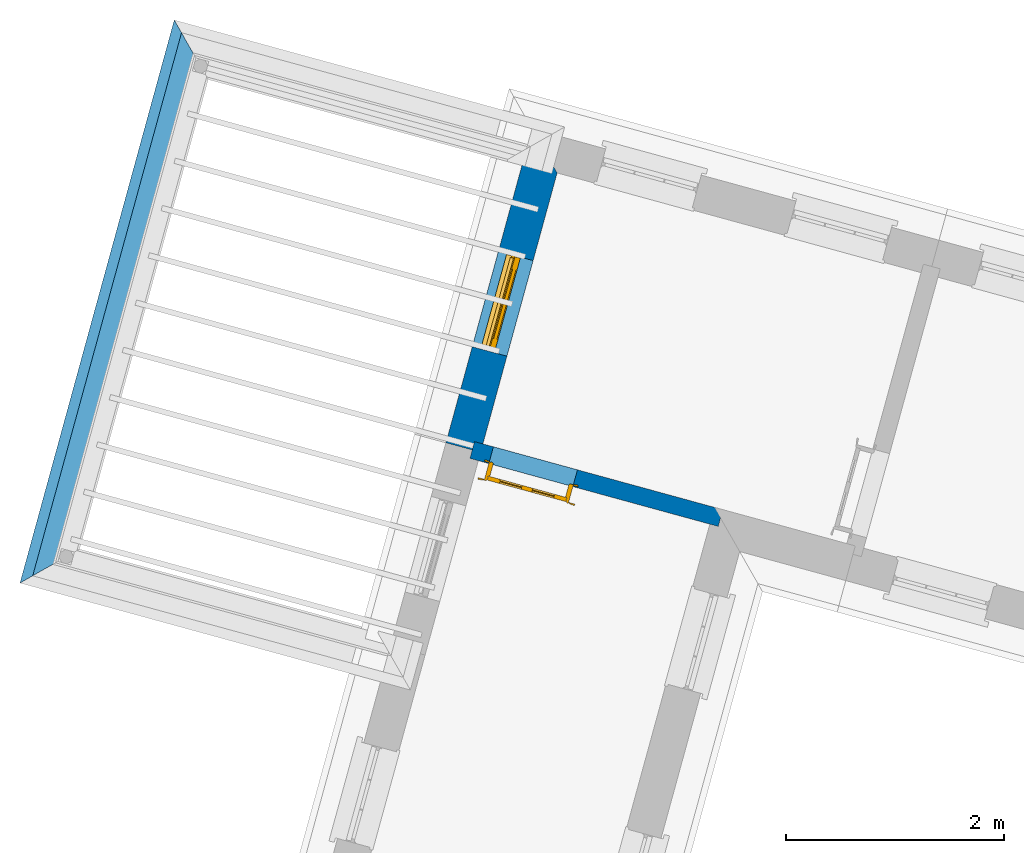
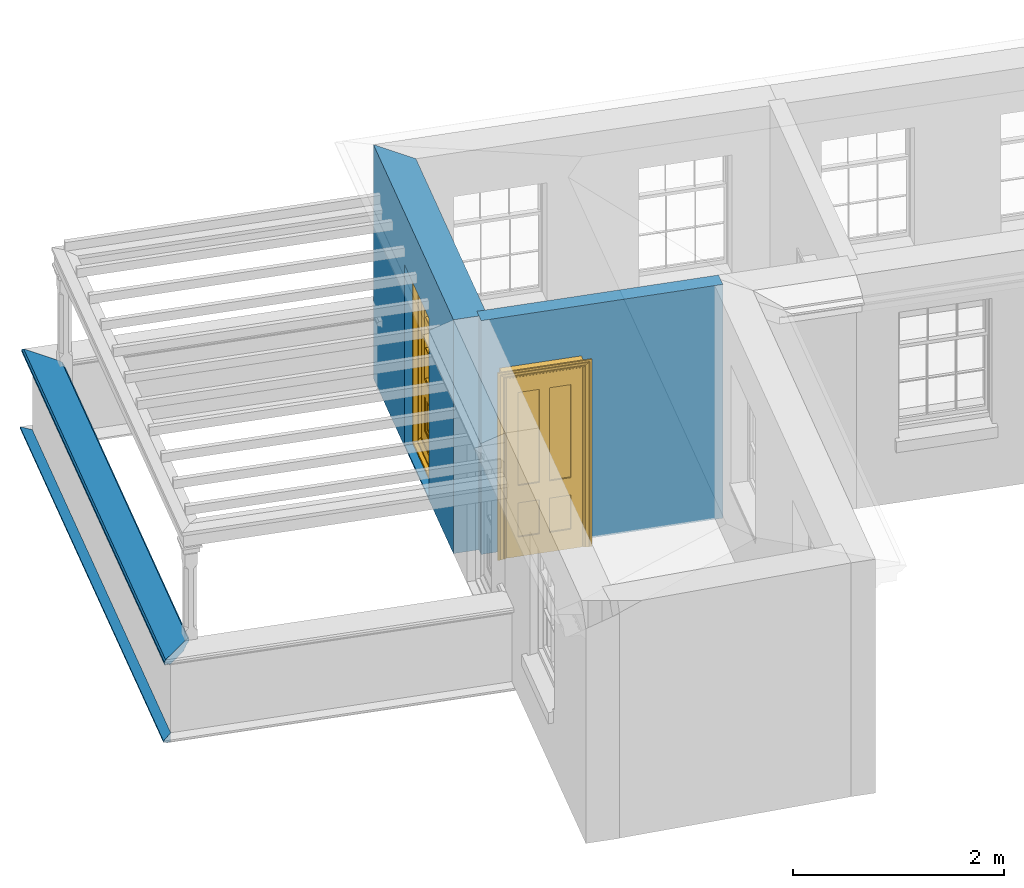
# One storey, part 3 of 5: 4 walls, 2 doors, 2 openings.
"""IFC4 building model written with IfcOpenShell, lengths in metres."""

from ifc_helpers import new_model, si_unit, frame, origin, origin_with_axes, place, context, subcontext, project, spatial, polyline, outline, extrude, clip, halfspace, faceted_brep, source, transform, mapped, material, layer, layer_set, layer_usage, material_profile, profile_set, profile_usage, type_object, type_shapes, element, fill, save


model = new_model("IFC4")

# Units and contexts
model_context = context("Model", 3, world=origin_with_axes())
body_context = subcontext(model_context, "Body", "Model", "MODEL_VIEW")
ifc_project = project(units=[si_unit("PLANEANGLEUNIT", "RADIAN"), si_unit("MASSUNIT", "GRAM", prefix="KILO"), si_unit("FORCEUNIT", "NEWTON", prefix="KILO"), si_unit("LENGTHUNIT", "METRE"), si_unit("AREAUNIT", "SQUARE_METRE"), si_unit("VOLUMEUNIT", "CUBIC_METRE")], contexts=[model_context, model_context])

# Sites, building, storey
site_1_placement = place(None, origin_with_axes())
site_1 = spatial("IfcSite", under=ifc_project, at=site_1_placement, Name="Tamar")
site_2_placement = place(site_1_placement, origin_with_axes())
site_2 = spatial("IfcSite", under=site_1, at=site_2_placement, Name="Site plot-29", CompositionType="ELEMENT")
building_placement = place(None, origin_with_axes())
building = spatial("IfcBuilding", under=site_2, at=building_placement, Name="Building plot-29", CompositionType="ELEMENT")
storey_placement = place(None, frame((0.0, 0.0, 30.55), z_axis=(0.0, 0.0, 1.0), x_axis=(1.0, 0.0, 0.0)))
storey = spatial("IfcBuildingStorey", under=building, at=storey_placement, Name="plot-29 2", CompositionType="ELEMENT", Elevation=30.55)

# Wall, opening, door
ifc_material_1 = material(Name="Masonry")
ifc_layer_1 = layer(ifc_material_1, 0.33, ventilated=False)
ifc_layer_set_1 = layer_set([ifc_layer_1], Name="exterior_0.08_0.25")
ifc_layer_usage_1 = layer_usage(ifc_layer_set_1, "AXIS2", "POSITIVE", -0.25)
wall_type_1 = type_object("IfcWallType", Name="exterior_0.08_0.25", PredefinedType="SOLIDWALL", material=ifc_layer_set_1)
wall_1_placement = place(storey_placement, frame((274.285325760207, 265.17368875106, 0.0), z_axis=(0.0, 0.0, 1.0), x_axis=(-0.264255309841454, -0.964452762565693, 0.0)))
wall_1 = element("IfcWall", 1, at=wall_1_placement, inside=storey, type_object=wall_type_1, material=ifc_layer_usage_1, Name="exterior", context=body_context, shape_type="SweptSolid", body=[
    extrude(outline(polyline([(0.0800000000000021, 0.0799999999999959), (-0.25000000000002, -0.25000000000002), (2.73910572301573, -0.250000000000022), (2.7391057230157, 0.0800000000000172), (0.0800000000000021, 0.0799999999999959)])), origin_with_axes(), (0.0, 0.0, 1.0), 2.7),
])
opening_1_placement = place(wall_1_placement, frame((0.914552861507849, 0.0, 0.0199999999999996)))
opening_1 = element("IfcOpeningElement", 2, at=opening_1_placement, cuts=wall_1, Name="My Opening", ObjectType="Opening", context=body_context, shape_type="SweptSolid", body=[
    extrude(outline(polyline([(0.0, -0.270000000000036), (0.910000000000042, -0.269999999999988), (0.910000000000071, 1.10000000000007), (2.79776202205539e-14, 1.10000000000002), (0.0, -0.270000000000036)])), origin_with_axes(), (0.0, 0.0, 1.0), 2.08),
])
door_type_1 = type_object("IfcDoorType", Name="door_panelled", OperationType="SINGLE_SWING_LEFT", PredefinedType="NOTDEFINED")
shared_shape_1 = source(origin(), body_context, "Body", "Brep", [
    faceted_brep([(0.545, 0.195, 0.265), (0.745, 0.195, 0.265), (0.745, 0.2, 0.265), (0.545, 0.2, 0.265), (0.745, 0.2, 0.58), (0.545, 0.2, 0.58), (0.545, 0.195, 0.58), (0.515, 0.19, 0.235), (0.775, 0.19, 0.235), (0.745, 0.195, 0.58), (0.515, 0.19, 0.61), (0.515, 0.185, 0.235), (0.775, 0.185, 0.235), (0.775, 0.19, 0.61), (0.515, 0.185, 0.61), (0.785, 0.185, 0.225), (0.505, 0.185, 0.225), (0.775, 0.185, 0.61), (0.505, 0.185, 0.62), (0.785, 0.185, 0.62), (0.505, 0.18, 0.225), (0.785, 0.18, 0.225), (0.505, 0.18, 0.62), (0.785, 0.18, 0.62), (0.883, 0.18, 0.075), (0.898, 0.18, 0.075), (0.405, 0.18, 0.62), (0.405, 0.18, 0.225), (0.027, 0.18, 0.075), (0.785, 0.18, 0.82), (0.125, 0.18, 0.82), (0.405, 0.185, 0.62), (0.405, 0.185, 0.225), (0.898, 0.18, 2.068), (0.027, 0.17, 0.075), (0.883, 0.17, 0.075), (0.125, 0.18, 0.225), (0.012, 0.18, 0.075), (0.785, 0.19, 0.82), (0.125, 0.19, 0.82), (0.125, 0.18, 0.62), (0.125, 0.185, 0.62), (0.395, 0.185, 0.61), (0.395, 0.185, 0.235), (0.125, 0.185, 0.225), (0.785, 0.18, 1.895), (0.027, 0.14, 0.045), (0.883, 0.14, 0.045), (0.558333, 0.19, 0.83), (0.351667, 0.19, 0.83), (0.125, 0.18, 1.895), (0.125, 0.19, 1.895), (0.785, 0.19, 1.895), (0.012, 0.18, 2.068), (0.135, 0.185, 0.61), (0.395, 0.19, 0.61), (0.395, 0.19, 0.235), (0.135, 0.185, 0.235), (0.027, 0.14, 0.027), (0.883, 0.14, 0.027), (0.568333, 0.19, 0.83), (0.558333, 0.22, 0.83), (0.351667, 0.22, 0.83), (0.341667, 0.19, 0.83), (0.135, 0.19, 1.185), (0.135, 0.19, 1.53), (0.775, 0.19, 1.53), (0.775, 0.19, 1.185), (0.135, 0.19, 0.61), (0.365, 0.195, 0.58), (0.365, 0.195, 0.265), (0.135, 0.19, 0.235), (0.568333, 0.19, 1.175), (0.558333, 0.19, 1.175), (0.775, 0.19, 0.83), (0.558333, 0.22, 1.175), (0.785, 0.22, 0.82), (0.125, 0.22, 0.82), (0.351667, 0.22, 1.175), (0.351667, 0.19, 1.175), (0.341667, 0.19, 1.175), (0.135, 0.19, 0.83), (0.135, 0.19, 1.175), (0.135, 0.22, 1.185), (0.135, 0.22, 1.53), (0.135, 0.19, 1.54), (0.351667, 0.19, 1.885), (0.558333, 0.19, 1.885), (0.775, 0.22, 1.53), (0.775, 0.22, 1.185), (0.775, 0.19, 1.175), (0.775, 0.19, 1.54), (0.165, 0.195, 0.58), (0.365, 0.2, 0.58), (0.365, 0.2, 0.265), (0.165, 0.195, 0.265), (0.568333, 0.22, 0.83), (0.568333, 0.22, 1.175), (0.568333, 0.19, 1.185), (0.558333, 0.19, 1.185), (0.775, 0.22, 0.83), (0.785, 0.23, 0.82), (0.125, 0.23, 0.82), (0.341667, 0.22, 0.83), (0.341667, 0.22, 1.175), (0.351667, 0.19, 1.185), (0.341667, 0.19, 1.185), (0.135, 0.22, 0.83), (0.341667, 0.22, 1.185), (0.125, 0.22, 1.895), (0.341667, 0.22, 1.53), (0.341667, 0.19, 1.53), (0.135, 0.19, 1.885), (0.341667, 0.19, 1.54), (0.341667, 0.19, 1.885), (0.558333, 0.22, 1.885), (0.351667, 0.22, 1.885), (0.568333, 0.19, 1.885), (0.785, 0.22, 1.895), (0.568333, 0.22, 1.185), (0.568333, 0.19, 1.53), (0.568333, 0.22, 1.53), (0.568333, 0.19, 1.54), (0.775, 0.19, 1.885), (0.165, 0.2, 0.58), (0.165, 0.2, 0.265), (0.775, 0.22, 1.175), (0.558333, 0.19, 1.53), (0.351667, 0.22, 1.185), (0.558333, 0.22, 1.185), (0.505, 0.23, 0.62), (0.405, 0.23, 0.62), (0.125, 0.23, 1.895), (0.785, 0.23, 1.895), (0.351667, 0.19, 1.53), (0.135, 0.22, 1.175), (0.135, 0.22, 1.54), (0.341667, 0.22, 1.54), (0.135, 0.22, 1.885), (0.351667, 0.19, 1.54), (0.558333, 0.22, 1.54), (0.558333, 0.19, 1.54), (0.351667, 0.22, 1.54), (0.775, 0.22, 1.54), (0.568333, 0.22, 1.54), (0.775, 0.22, 1.885), (0.558333, 0.22, 1.53), (0.405, 0.23, 0.225), (0.505, 0.23, 0.225), (0.125, 0.23, 0.62), (0.785, 0.23, 0.62), (0.012, 0.23, 2.068), (0.898, 0.23, 2.068), (0.351667, 0.22, 1.53), (0.341667, 0.22, 1.885), (0.568333, 0.22, 1.885), (0.405, 0.225, 0.225), (0.405, 0.225, 0.62), (0.505, 0.225, 0.62), (0.505, 0.225, 0.225), (0.898, 0.23, 0.027), (0.012, 0.23, 0.027), (0.125, 0.225, 0.62), (0.785, 0.225, 0.62), (0.395, 0.225, 0.235), (0.395, 0.225, 0.61), (0.125, 0.23, 0.225), (0.125, 0.225, 0.225), (0.515, 0.225, 0.61), (0.515, 0.225, 0.235), (0.785, 0.23, 0.225), (0.785, 0.225, 0.225), (0.135, 0.225, 0.61), (0.775, 0.225, 0.61), (0.135, 0.225, 0.235), (0.395, 0.22, 0.235), (0.395, 0.22, 0.61), (0.515, 0.22, 0.61), (0.515, 0.22, 0.235), (0.775, 0.225, 0.235), (0.135, 0.22, 0.61), (0.775, 0.22, 0.61), (0.135, 0.22, 0.235), (0.365, 0.215, 0.265), (0.365, 0.215, 0.58), (0.545, 0.215, 0.58), (0.545, 0.215, 0.265), (0.775, 0.22, 0.235), (0.165, 0.215, 0.58), (0.745, 0.215, 0.58), (0.165, 0.215, 0.265), (0.365, 0.21, 0.58), (0.365, 0.21, 0.265), (0.545, 0.21, 0.58), (0.545, 0.21, 0.265), (0.745, 0.215, 0.265), (0.165, 0.21, 0.58), (0.745, 0.21, 0.58), (0.165, 0.21, 0.265), (0.745, 0.21, 0.265), (0.885, 0.178, 0.025), (0.025, 0.178, 0.025), (0.025, 0.15, 0.025), (0.885, 0.15, 0.025), (0.9, 0.23, 0.025), (0.01, 0.23, 0.025), (0.9, 0.178, 0.025), (0.91, 0.23, 0.0), (0.0, 0.23, 0.0), (0.01, 0.178, 0.025), (0.9, 0.178, 2.07), (0.9, 0.23, 2.07), (0.885, 0.178, 2.055), (0.91, 0.23, 2.08), (0.01, 0.23, 2.07), (0.0, 0.23, 2.08), (0.01, 0.178, 2.07), (0.025, 0.178, 2.055), (0.0, 0.1, 2.08), (0.91, 0.1, 2.08), (0.01, 0.1, 2.07), (0.9, 0.1, 2.07), (0.01, 0.15, 2.07), (0.9, 0.15, 2.07), (0.0, 0.1, 0.0), (0.91, 0.1, 0.0), (0.01, 0.1, 0.025), (0.9, 0.1, 0.025), (0.01, 0.15, 0.025), (0.025, 0.15, 2.055), (0.9, 0.15, 0.025), (0.885, 0.15, 2.055), (0.898, 0.18, 0.027), (0.012, 0.18, 0.027), (0.883, 0.18, 0.027), (0.027, 0.18, 0.027)], [[[0, 1, 2, 3]], [[2, 4, 5, 3]], [[0, 3, 5, 6]], [[1, 0, 7, 8]], [[9, 4, 2, 1]], [[9, 6, 5, 4]], [[0, 6, 10, 7]], [[8, 7, 11, 12]], [[8, 13, 9, 1]], [[13, 10, 6, 9]], [[7, 10, 14, 11]], [[15, 12, 11, 16]], [[12, 17, 13, 8]], [[17, 14, 10, 13]], [[18, 16, 11, 14]], [[15, 19, 17, 12]], [[15, 16, 20, 21]], [[14, 17, 19, 18]], [[16, 18, 22, 20]], [[21, 23, 19, 15]], [[24, 25, 21, 20]], [[23, 22, 18, 19]], [[20, 22, 26, 27]], [[23, 21, 25]], [[28, 24, 20, 27]], [[22, 23, 29]], [[29, 30, 26, 22]], [[27, 26, 31, 32]], [[23, 25, 33, 29]], [[34, 35, 24, 28]], [[28, 27, 36, 37]], [[38, 39, 30, 29]], [[26, 30, 40]], [[26, 40, 41, 31]], [[42, 43, 32, 31]], [[32, 44, 36, 27]], [[33, 45, 29]], [[46, 47, 35, 34]], [[36, 40, 37]], [[39, 38, 48, 49]], [[50, 30, 39, 51]], [[29, 45, 52, 38]], [[53, 37, 40, 30]], [[44, 41, 40, 36]], [[31, 41, 54, 42]], [[43, 42, 55, 56]], [[57, 44, 32, 43]], [[50, 45, 33, 53]], [[47, 46, 58, 59]], [[60, 48, 38]], [[49, 48, 61, 62]], [[49, 63, 39]], [[50, 53, 30]], [[51, 39, 64, 65]], [[45, 50, 51, 52]], [[66, 67, 38, 52]], [[57, 54, 41, 44]], [[42, 54, 68, 55]], [[56, 55, 69, 70]], [[56, 71, 57, 43]], [[60, 72, 73, 48]], [[60, 38, 74]], [[48, 73, 75, 61]], [[76, 77, 62, 61]], [[62, 78, 79, 49]], [[49, 79, 80, 63]], [[63, 81, 39]], [[82, 64, 39]], [[65, 64, 83, 84]], [[85, 51, 65]], [[52, 51, 86, 87]], [[88, 89, 67, 66]], [[90, 38, 67]], [[91, 66, 52]], [[71, 68, 54, 57]], [[55, 68, 92, 69]], [[69, 93, 94, 70]], [[70, 95, 71, 56]], [[96, 97, 72, 60]], [[73, 72, 98, 99]], [[74, 38, 90]], [[100, 96, 60, 74]], [[75, 73, 79, 78]], [[61, 75, 97, 96]], [[101, 102, 77, 76]], [[77, 103, 62]], [[96, 76, 61]], [[103, 104, 78, 62]], [[80, 79, 105, 106]], [[63, 80, 104, 103]], [[81, 63, 103, 107]], [[81, 82, 39]], [[106, 64, 82, 80]], [[106, 108, 83, 64]], [[84, 83, 77, 109]], [[110, 111, 65, 84]], [[112, 51, 85]], [[113, 85, 65, 111]], [[114, 86, 51]], [[115, 87, 86, 116]], [[117, 52, 87]], [[118, 76, 89, 88]], [[119, 98, 67, 89]], [[120, 121, 88, 66]], [[67, 98, 72, 90]], [[91, 122, 120, 66]], [[91, 52, 123]], [[95, 92, 68, 71]], [[69, 92, 124, 93]], [[94, 93, 124, 125]], [[94, 125, 95, 70]], [[72, 97, 126, 90]], [[127, 99, 98, 120]], [[99, 105, 79, 73]], [[74, 90, 126, 100]], [[96, 100, 76]], [[128, 129, 75, 78]], [[97, 75, 129, 119]], [[130, 131, 102, 101]], [[109, 77, 102, 132]], [[133, 101, 76, 118]], [[77, 107, 103]], [[78, 104, 108, 128]], [[111, 106, 105, 134]], [[104, 80, 82, 135]], [[107, 135, 82, 81]], [[110, 108, 106, 111]], [[104, 135, 83, 108]], [[83, 135, 77]], [[136, 84, 109]], [[110, 84, 136, 137]], [[114, 51, 112]], [[85, 136, 138, 112]], [[113, 137, 136, 85]], [[111, 134, 139, 113]], [[86, 114, 113, 139]], [[140, 141, 87, 115]], [[139, 142, 116, 86]], [[109, 118, 115, 116]], [[117, 123, 52]], [[117, 87, 141, 122]], [[126, 89, 76]], [[143, 118, 88]], [[120, 98, 119, 121]], [[119, 89, 126, 97]], [[144, 143, 88, 121]], [[144, 122, 91, 143]], [[127, 120, 122, 141]], [[143, 91, 123, 145]], [[124, 92, 95, 125]], [[146, 129, 99, 127]], [[99, 129, 128, 105]], [[100, 126, 76]], [[121, 119, 129, 146]], [[147, 131, 130, 148]], [[131, 149, 102]], [[130, 101, 150]], [[102, 151, 132]], [[118, 109, 132, 133]], [[101, 133, 152]], [[107, 77, 135]], [[153, 128, 108, 110]], [[134, 105, 128, 153]], [[109, 138, 136]], [[153, 110, 137, 142]], [[154, 114, 112, 138]], [[137, 113, 114, 154]], [[141, 139, 134, 127]], [[141, 140, 142, 139]], [[144, 140, 115, 155]], [[142, 137, 154, 116]], [[155, 115, 118]], [[116, 154, 109]], [[117, 155, 145, 123]], [[122, 144, 155, 117]], [[143, 145, 118]], [[121, 146, 140, 144]], [[146, 127, 134, 153]], [[156, 157, 131, 147]], [[148, 130, 158, 159]], [[148, 160, 161, 147]], [[157, 162, 149, 131]], [[161, 151, 102, 149]], [[101, 152, 160, 150]], [[163, 158, 130, 150]], [[151, 152, 133, 132]], [[154, 138, 109]], [[142, 140, 146, 153]], [[145, 155, 118]], [[157, 156, 164, 165]], [[147, 166, 167, 156]], [[168, 169, 159, 158]], [[170, 148, 159, 171]], [[148, 170, 160]], [[166, 147, 161]], [[172, 162, 157, 165]], [[166, 149, 162, 167]], [[166, 161, 149]], [[150, 160, 170]], [[163, 173, 168, 158]], [[171, 163, 150, 170]], [[174, 164, 156, 167]], [[175, 176, 165, 164]], [[169, 168, 177, 178]], [[171, 159, 169, 179]], [[167, 162, 172, 174]], [[176, 180, 172, 165]], [[179, 173, 163, 171]], [[181, 177, 168, 173]], [[164, 174, 182, 175]], [[183, 184, 176, 175]], [[178, 177, 185, 186]], [[179, 169, 178, 187]], [[174, 172, 180, 182]], [[184, 188, 180, 176]], [[187, 181, 173, 179]], [[189, 185, 177, 181]], [[175, 182, 190, 183]], [[191, 184, 183, 192]], [[185, 193, 194, 186]], [[187, 178, 186, 195]], [[182, 180, 188, 190]], [[191, 196, 188, 184]], [[195, 189, 181, 187]], [[197, 193, 185, 189]], [[183, 190, 198, 192]], [[198, 196, 191, 192]], [[194, 193, 197, 199]], [[195, 186, 194, 199]], [[188, 196, 198, 190]], [[197, 189, 195, 199]], [[200, 201, 202, 203]], [[201, 200, 204, 205]], [[206, 204, 200]], [[204, 207, 208, 205]], [[209, 201, 205]], [[210, 211, 204, 206]], [[206, 200, 212, 210]], [[211, 213, 207, 204]], [[214, 205, 208, 215]], [[216, 217, 201, 209]], [[205, 214, 216, 209]], [[216, 214, 211, 210]], [[210, 212, 217, 216]], [[214, 215, 213, 211]], [[218, 219, 213, 215]], [[219, 218, 220, 221]], [[221, 220, 222, 223]], [[215, 208, 224, 218]], [[225, 224, 208, 207]], [[224, 226, 220, 218]], [[224, 225, 227, 226]], [[219, 225, 207, 213]], [[228, 222, 220, 226]], [[219, 221, 227, 225]], [[226, 227, 203, 202]], [[202, 229, 222, 228]], [[228, 226, 202]], [[227, 221, 223, 230]], [[230, 203, 227]], [[217, 229, 202, 201]], [[231, 223, 222, 229]], [[230, 223, 231, 203]], [[231, 229, 217, 212]], [[212, 200, 203, 231]], [[33, 152, 151, 53]], [[25, 160, 152, 33]], [[161, 37, 53, 151]], [[232, 160, 25]], [[161, 233, 37]], [[160, 232, 234]], [[24, 234, 232, 25]], [[233, 161, 235]], [[37, 233, 235, 28]], [[161, 160, 234, 235]], [[35, 47, 234, 24]], [[28, 235, 46, 34]], [[58, 235, 234, 59]], [[59, 234, 47]], [[58, 46, 235]]]),
])
type_shapes(door_type_1, [shared_shape_1])
door_1_placement = place(storey_placement, frame((273.78324806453, 264.362994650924, 0.0199999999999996), z_axis=(0.0, 0.0, 1.0), x_axis=(-0.240472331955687, -0.877652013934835, 0.0)))
door_1 = element("IfcDoor", 3, at=door_1_placement, inside=storey, type_object=door_type_1, Name="circulation outside door", OverallHeight=2.08, OverallWidth=0.91, context=body_context, shape_type="MappedRepresentation", body=[
    mapped(shared_shape_1, transform((0.0, 0.0, 0.0), scale=1.0)),
])
fill(opening_1, door_1)

ifc_material_2 = material(Name="Masonry")
ifc_layer_2 = layer(ifc_material_2, 0.16, ventilated=False)
ifc_layer_set_2 = layer_set([ifc_layer_2], Name="interior_0.08_0.08")
ifc_layer_usage_2 = layer_usage(ifc_layer_set_2, "AXIS2", "POSITIVE", -0.08)
wall_type_2 = type_object("IfcWallType", Name="interior_0.08_0.08", PredefinedType="SOLIDWALL", material=ifc_layer_set_2)
wall_2_placement = place(storey_placement, frame((275.841180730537, 261.90733006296, 0.0), z_axis=(0.0, 0.0, 1.0), x_axis=(-0.964452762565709, 0.264255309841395, 0.0)))
wall_2 = element("IfcWall", 4, at=wall_2_placement, inside=storey, type_object=wall_type_2, material=ifc_layer_usage_2, Name="interior", context=body_context, shape_type="SweptSolid", body=[
    extrude(outline(polyline([(-2.69246710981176e-14, 0.0800000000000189), (2.69167047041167e-14, -0.0800000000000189), (2.36370125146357, -0.0800000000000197), (2.36370125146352, 0.0800000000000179), (-2.69246710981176e-14, 0.0800000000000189)])), origin_with_axes(), (0.0, 0.0, 1.0), 2.7),
])
opening_2_placement = place(wall_2_placement, frame((1.38370125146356, 0.0, 0.0199999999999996)))
opening_2 = element("IfcOpeningElement", 5, at=opening_2_placement, cuts=wall_2, Name="My Opening", ObjectType="Opening", context=body_context, shape_type="SweptSolid", body=[
    extrude(outline(polyline([(0.0, -0.0999999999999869), (0.80000000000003, -0.0999999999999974), (0.79999999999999, 1.10000000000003), (-3.93018950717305e-14, 1.10000000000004), (0.0, -0.0999999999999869)])), origin_with_axes(), (0.0, 0.0, 1.0), 2.1),
])
door_type_2 = type_object("IfcDoorType", Name="door_inside", OperationType="SINGLE_SWING_LEFT", PredefinedType="NOTDEFINED")
shared_shape_2 = source(origin(), body_context, "Body", "Brep", [
    faceted_brep([(0.773, 0.33, 1.895), (0.66, 0.33, 1.895), (0.66, 0.33, 2.073), (0.773, 0.33, 2.073), (0.773, 0.33, 0.82), (0.66, 0.33, 0.82), (0.45, 0.33, 1.895), (0.45, 0.33, 2.073), (0.773, 0.33, 0.62), (0.66, 0.33, 0.62), (0.66, 0.315, 0.82), (0.66, 0.315, 1.895), (0.45, 0.315, 1.895), (0.35, 0.33, 1.895), (0.35, 0.33, 2.073), (0.773, 0.33, 0.225), (0.66, 0.33, 0.225), (0.45, 0.33, 0.62), (0.45, 0.33, 0.82), (0.45, 0.315, 0.82), (0.35, 0.33, 0.82), (0.14, 0.33, 2.073), (0.14, 0.33, 1.895), (0.773, 0.33, 0.0), (0.66, 0.33, 0.0), (0.66, 0.315, 0.225), (0.66, 0.315, 0.62), (0.45, 0.315, 0.62), (0.35, 0.33, 0.62), (0.35, 0.315, 0.82), (0.35, 0.315, 1.895), (0.14, 0.315, 1.895), (0.027, 0.33, 2.073), (0.027, 0.33, 1.895), (0.773, 0.292, 0.0), (0.66, 0.292, 0.0), (0.45, 0.33, 0.0), (0.45, 0.33, 0.225), (0.45, 0.315, 0.225), (0.35, 0.33, 0.225), (0.14, 0.33, 0.82), (0.14, 0.33, 0.62), (0.14, 0.315, 0.82), (0.027, 0.33, 0.82), (0.773, 0.292, 0.225), (0.66, 0.292, 0.225), (0.45, 0.292, 0.0), (0.35, 0.33, 0.0), (0.35, 0.315, 0.225), (0.35, 0.315, 0.62), (0.14, 0.315, 0.62), (0.027, 0.33, 0.62), (0.773, 0.292, 0.62), (0.66, 0.292, 0.62), (0.45, 0.292, 0.225), (0.35, 0.292, 0.0), (0.14, 0.33, 0.225), (0.14, 0.33, 0.0), (0.14, 0.315, 0.225), (0.027, 0.33, 0.225), (0.773, 0.292, 0.82), (0.66, 0.292, 0.82), (0.66, 0.307, 0.62), (0.66, 0.307, 0.225), (0.45, 0.307, 0.225), (0.35, 0.292, 0.225), (0.14, 0.292, 0.0), (0.027, 0.33, 0.0), (0.773, 0.292, 1.895), (0.66, 0.292, 1.895), (0.45, 0.292, 0.62), (0.45, 0.292, 0.82), (0.45, 0.307, 0.62), (0.35, 0.292, 0.62), (0.14, 0.292, 0.225), (0.027, 0.292, 0.0), (0.773, 0.292, 2.073), (0.66, 0.292, 2.073), (0.66, 0.307, 1.895), (0.66, 0.307, 0.82), (0.45, 0.307, 0.82), (0.35, 0.292, 0.82), (0.35, 0.307, 0.62), (0.35, 0.307, 0.225), (0.14, 0.307, 0.225), (0.027, 0.292, 0.225), (0.45, 0.292, 1.895), (0.45, 0.292, 2.073), (0.45, 0.307, 1.895), (0.35, 0.292, 1.895), (0.14, 0.292, 0.82), (0.14, 0.292, 0.62), (0.14, 0.307, 0.62), (0.027, 0.292, 0.62), (0.35, 0.292, 2.073), (0.35, 0.307, 1.895), (0.35, 0.307, 0.82), (0.14, 0.307, 0.82), (0.027, 0.292, 0.82), (0.14, 0.292, 2.073), (0.14, 0.292, 1.895), (0.14, 0.307, 1.895), (0.027, 0.292, 1.895), (0.027, 0.292, 2.073), (0.02, 0.335, 0.0), (0.005, 0.34, 0.0), (0.005, 0.34, 2.095), (0.02, 0.335, 2.08), (0.02, 0.33, 0.0), (0.0, 0.335, 0.0), (0.0, 0.335, 2.1), (0.795, 0.34, 2.095), (0.78, 0.335, 2.08), (0.02, 0.33, 2.08), (0.0, 0.33, 0.0), (-0.032, 0.345, 0.0), (-0.032, 0.345, 2.132), (0.8, 0.335, 2.1), (0.795, 0.34, 0.0), (0.78, 0.335, 0.0), (0.78, 0.33, 2.08), (0.04, 0.29, 0.0), (0.025, 0.29, 0.0), (0.025, 0.29, 2.075), (0.04, 0.29, 2.06), (-0.04, 0.34, 0.0), (-0.04, 0.34, 2.14), (0.832, 0.345, 2.132), (0.8, 0.335, 0.0), (0.78, 0.33, 0.0), (0.8, 0.33, 0.0), (0.86, 0.33, 0.0), (0.86, 0.33, 2.16), (0.8, 0.33, 2.1), (-0.06, 0.33, 2.16), (0.0, 0.33, 2.1), (-0.06, 0.33, 0.0), (-0.04, 0.345, 0.0), (-0.04, 0.345, 2.14), (0.84, 0.34, 2.14), (0.832, 0.345, 0.0), (0.84, 0.34, 0.0), (0.86, 0.345, 0.0), (0.86, 0.345, 2.16), (-0.06, 0.345, 2.16), (-0.06, 0.345, 0.0), (0.84, 0.345, 0.0), (0.84, 0.345, 2.14), (-0.025, 0.155, 0.0), (-0.025, 0.16, 0.0), (-0.025, 0.16, 2.125), (-0.025, 0.155, 2.125), (-0.017, 0.155, 0.0), (-0.017, 0.155, 2.117), (0.825, 0.16, 2.125), (0.825, 0.155, 2.125), (0.825, 0.155, 0.0), (0.845, 0.155, 0.0), (-0.045, 0.155, 2.145), (-0.045, 0.155, 0.0), (0.845, 0.155, 2.145), (0.015, 0.165, 0.0), (0.015, 0.165, 2.085), (0.817, 0.155, 2.117), (0.825, 0.16, 0.0), (0.845, 0.17, 0.0), (0.845, 0.17, 2.145), (-0.045, 0.17, 2.145), (-0.045, 0.17, 0.0), (0.02, 0.16, 0.0), (0.02, 0.16, 2.08), (0.785, 0.165, 2.085), (0.817, 0.155, 0.0), (0.8, 0.17, 0.0), (0.8, 0.17, 2.1), (0.0, 0.17, 2.1), (0.0, 0.17, 0.0), (0.035, 0.165, 0.0), (0.035, 0.165, 2.065), (0.78, 0.16, 2.08), (0.785, 0.165, 0.0), (0.775, 0.29, 2.075), (0.76, 0.29, 2.06), (0.035, 0.17, 2.065), (0.035, 0.17, 0.0), (0.765, 0.165, 2.065), (0.78, 0.16, 0.0), (0.765, 0.17, 0.0), (0.765, 0.17, 2.065), (0.765, 0.165, 0.0), (0.04, 0.17, 2.06), (0.04, 0.17, 0.0), (0.76, 0.17, 2.06), (0.76, 0.17, 0.0), (0.76, 0.29, 0.0), (0.775, 0.29, 0.0), (0.025, 0.33, 0.0), (0.025, 0.33, 2.075), (0.775, 0.33, 0.0), (0.775, 0.33, 2.075)], [[[0, 1, 2, 3]], [[1, 0, 4, 5]], [[1, 6, 7, 2]], [[8, 9, 5, 4]], [[1, 5, 10, 11]], [[6, 1, 11, 12]], [[6, 13, 14, 7]], [[15, 16, 9, 8]], [[9, 17, 18, 5]], [[5, 18, 19, 10]], [[10, 19, 12, 11]], [[18, 6, 12, 19]], [[18, 20, 13, 6]], [[21, 14, 13, 22]], [[23, 24, 16, 15]], [[9, 16, 25, 26]], [[17, 9, 26, 27]], [[17, 28, 20, 18]], [[13, 20, 29, 30]], [[22, 13, 30, 31]], [[32, 21, 22, 33]], [[34, 35, 24, 23]], [[24, 36, 37, 16]], [[16, 37, 38, 25]], [[25, 38, 27, 26]], [[37, 17, 27, 38]], [[37, 39, 28, 17]], [[40, 20, 28, 41]], [[20, 40, 42, 29]], [[31, 30, 29, 42]], [[40, 22, 31, 42]], [[33, 22, 40, 43]], [[35, 34, 44, 45]], [[35, 46, 36, 24]], [[36, 47, 39, 37]], [[28, 39, 48, 49]], [[41, 28, 49, 50]], [[43, 40, 41, 51]], [[45, 44, 52, 53]], [[46, 35, 45, 54]], [[46, 55, 47, 36]], [[56, 39, 47, 57]], [[39, 56, 58, 48]], [[50, 49, 48, 58]], [[56, 41, 50, 58]], [[51, 41, 56, 59]], [[53, 52, 60, 61]], [[45, 53, 62, 63]], [[54, 45, 63, 64]], [[55, 46, 54, 65]], [[55, 66, 57, 47]], [[59, 56, 57, 67]], [[61, 60, 68, 69]], [[70, 53, 61, 71]], [[53, 70, 72, 62]], [[72, 64, 63, 62]], [[70, 54, 64, 72]], [[65, 54, 70, 73]], [[65, 74, 66, 55]], [[67, 57, 66, 75]], [[69, 68, 76, 77]], [[61, 69, 78, 79]], [[71, 61, 79, 80]], [[73, 70, 71, 81]], [[65, 73, 82, 83]], [[74, 65, 83, 84]], [[74, 85, 75, 66]], [[86, 69, 77, 87]], [[69, 86, 88, 78]], [[88, 80, 79, 78]], [[86, 71, 80, 88]], [[81, 71, 86, 89]], [[73, 81, 90, 91]], [[73, 91, 92, 82]], [[83, 82, 92, 84]], [[91, 74, 84, 92]], [[91, 93, 85, 74]], [[89, 86, 87, 94]], [[81, 89, 95, 96]], [[90, 81, 96, 97]], [[90, 98, 93, 91]], [[94, 99, 100, 89]], [[89, 100, 101, 95]], [[101, 97, 96, 95]], [[100, 90, 97, 101]], [[100, 102, 98, 90]], [[99, 103, 102, 100]], [[32, 103, 99, 21]], [[102, 103, 32, 33]], [[98, 102, 33, 43]], [[21, 99, 94, 14]], [[94, 87, 7, 14]], [[7, 87, 77, 2]], [[76, 3, 2, 77]], [[43, 51, 93, 98]], [[51, 59, 85, 93]], [[67, 75, 85, 59]], [[34, 23, 15, 44]], [[44, 15, 8, 52]], [[52, 8, 4, 60]], [[0, 68, 60, 4]], [[0, 3, 76, 68]], [[104, 105, 106, 107]], [[104, 108, 109, 105]], [[105, 109, 110, 106]], [[107, 106, 111, 112]], [[107, 113, 108, 104]], [[114, 109, 108]], [[109, 115, 116, 110]], [[106, 110, 117, 111]], [[112, 111, 118, 119]], [[113, 107, 112, 120]], [[121, 122, 123, 124]], [[115, 109, 114, 125]], [[115, 125, 126, 116]], [[110, 116, 127, 117]], [[111, 117, 128, 118]], [[118, 128, 129, 119]], [[120, 112, 119, 129]], [[130, 129, 128]], [[130, 131, 132, 133]], [[133, 132, 134, 135]], [[135, 134, 136, 114]], [[136, 125, 114]], [[125, 137, 138, 126]], [[116, 126, 139, 127]], [[117, 127, 140, 128]], [[141, 130, 128, 140]], [[131, 130, 141]], [[131, 142, 143, 132]], [[132, 143, 144, 134]], [[134, 144, 145, 136]], [[137, 125, 136, 145]], [[143, 142, 146]], [[143, 146, 147]], [[137, 145, 144]], [[143, 147, 138]], [[138, 137, 144]], [[143, 138, 144]], [[126, 138, 147, 139]], [[127, 139, 141, 140]], [[142, 131, 141, 146]], [[139, 147, 146, 141]], [[148, 149, 150, 151]], [[149, 152, 153, 150]], [[151, 150, 154, 155]], [[155, 156, 157]], [[158, 159, 148]], [[158, 148, 151]], [[155, 157, 160]], [[158, 151, 155]], [[155, 160, 158]], [[152, 161, 162, 153]], [[150, 153, 163, 154]], [[155, 154, 164, 156]], [[156, 164, 165, 157]], [[157, 165, 166, 160]], [[160, 166, 167, 158]], [[158, 167, 168, 159]], [[161, 169, 170, 162]], [[153, 162, 171, 163]], [[154, 163, 172, 164]], [[165, 164, 173]], [[165, 173, 174, 166]], [[166, 174, 175, 167]], [[167, 175, 176, 168]], [[169, 177, 178, 170]], [[162, 170, 179, 171]], [[163, 171, 180, 172]], [[172, 180, 173, 164]], [[124, 123, 181, 182]], [[183, 178, 177, 184]], [[170, 178, 185, 179]], [[171, 179, 186, 180]], [[187, 173, 180]], [[185, 188, 187, 189]], [[188, 185, 178, 183]], [[179, 185, 189, 186]], [[189, 187, 180, 186]], [[190, 183, 184, 191]], [[192, 188, 183, 190]], [[191, 184, 122, 121]], [[124, 190, 191, 121]], [[193, 187, 188, 192]], [[182, 192, 190, 124]], [[184, 176, 122]], [[194, 195, 187, 193]], [[192, 182, 194, 193]], [[161, 176, 184]], [[114, 108, 122, 176]], [[173, 187, 195]], [[152, 149, 176, 161]], [[169, 161, 184, 177]], [[196, 122, 108]], [[176, 175, 135, 114]], [[173, 195, 129, 130]], [[176, 149, 168]], [[123, 122, 196, 197]], [[196, 108, 113, 197]], [[175, 174, 133, 135]], [[198, 129, 195]], [[133, 174, 173, 130]], [[159, 168, 149, 148]], [[181, 123, 197, 199]], [[197, 113, 120, 199]], [[199, 120, 129, 198]], [[195, 181, 199, 198]], [[195, 194, 182, 181]]]),
])
type_shapes(door_type_2, [shared_shape_2])
door_2_placement = place(storey_placement, frame((274.533091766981, 262.36942574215, 0.0199999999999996), z_axis=(0.0, 0.0, 1.0), x_axis=(-0.771562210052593, 0.211404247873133, 0.0)))
door_2 = element("IfcDoor", 6, at=door_2_placement, inside=storey, type_object=door_type_2, Name="bedroom inside door", OverallHeight=2.1, OverallWidth=0.8, context=body_context, shape_type="MappedRepresentation", body=[
    mapped(shared_shape_2, transform((0.0, 0.0, 0.0), scale=1.0)),
])
fill(opening_2, door_2)

# Walls
ifc_material_profile_1 = material_profile(None, outline(polyline([(0.265, 0.795), (0.268, 0.807), (0.274, 0.816), (0.283, 0.822), (0.295, 0.825), (0.295, 0.84), (0.305, 0.84), (0.317, 0.842), (0.326, 0.849), (0.333, 0.858), (0.335, 0.87), (0.333, 0.882), (0.326, 0.891), (0.317, 0.898), (0.305, 0.9), (0.035, 0.9), (0.023, 0.898), (0.014, 0.891), (0.007, 0.882), (0.005, 0.87), (0.007, 0.858), (0.014, 0.849), (0.023, 0.842), (0.035, 0.84), (0.045, 0.84), (0.045, 0.825), (0.057, 0.822), (0.066, 0.816), (0.072, 0.807), (0.075, 0.795), (0.265, 0.795)])))
ifc_profile_set_1 = profile_set([ifc_material_profile_1])
ifc_profile_usage_1 = profile_usage(ifc_profile_set_1)
wall_type_3 = type_object("IfcWallType", Name="parapet_1", PredefinedType="PARAPET", material=ifc_profile_set_1)
wall_3_placement = place(storey_placement, frame((269.570228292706, 260.587609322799, 0.0), z_axis=(0.264255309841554, 0.964452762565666, 0.0), x_axis=(-0.964452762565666, 0.264255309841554, 0.0)))
element("IfcWall", 7, at=wall_3_placement, inside=storey, type_object=wall_type_3, material=ifc_profile_usage_1, Name="parapet_1", context=body_context, shape_type="Clipping", body=[
    clip(clip(extrude(outline(polyline([(0.265, 0.795), (0.268, 0.807), (0.274, 0.816), (0.283, 0.822), (0.295, 0.825), (0.295, 0.84), (0.305, 0.84), (0.317, 0.842), (0.326, 0.849), (0.333, 0.858), (0.335, 0.87), (0.333, 0.882), (0.326, 0.891), (0.317, 0.898), (0.305, 0.9), (0.035, 0.9), (0.023, 0.898), (0.014, 0.891), (0.007, 0.882), (0.005, 0.87), (0.007, 0.858), (0.014, 0.849), (0.023, 0.842), (0.035, 0.84), (0.045, 0.84), (0.045, 0.825), (0.057, 0.822), (0.066, 0.816), (0.072, 0.807), (0.075, 0.795), (0.265, 0.795)])), origin_with_axes(), (0.0, 0.0, 1.0), 6.66904651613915), halfspace(frame((0.0, 0.0, 5.66904651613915), z_axis=(0.707106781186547, 0.0, -0.707106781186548), x_axis=(0.0, 1.0, 0.0)), True)), halfspace(frame((0.0, 0.0, 1.0), z_axis=(-0.707106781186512, 0.0, -0.707106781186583), x_axis=(0.0, 1.0, 0.0)), False)),
])
ifc_material_profile_2 = material_profile(None, outline(polyline([(0.25, -0.1), (0.265, -0.1), (0.265, -0.085), (0.278, -0.084), (0.289, -0.081), (0.301, -0.074), (0.309, -0.065), (0.315, -0.055), (0.324, -0.044), (0.334, -0.038), (0.345, -0.035), (0.345, -0.015), (0.25, 0.0), (0.25, -0.1)])))
ifc_profile_set_2 = profile_set([ifc_material_profile_2])
ifc_profile_usage_2 = profile_usage(ifc_profile_set_2)
wall_type_4 = type_object("IfcWallType", Name="parapet_2", PredefinedType="PARAPET", material=ifc_profile_set_2)
wall_4_placement = place(storey_placement, frame((269.570228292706, 260.587609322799, 0.0), z_axis=(0.264255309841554, 0.964452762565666, 0.0), x_axis=(-0.964452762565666, 0.264255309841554, 0.0)))
element("IfcWall", 8, at=wall_4_placement, inside=storey, type_object=wall_type_4, material=ifc_profile_usage_2, Name="parapet_2", context=body_context, shape_type="Clipping", body=[
    clip(clip(extrude(outline(polyline([(0.25, -0.1), (0.265, -0.1), (0.265, -0.085), (0.278, -0.084), (0.289, -0.081), (0.301, -0.074), (0.309, -0.065), (0.315, -0.055), (0.324, -0.044), (0.334, -0.038), (0.345, -0.035), (0.345, -0.015), (0.25, 0.0), (0.25, -0.1)])), origin_with_axes(), (0.0, 0.0, 1.0), 6.66904651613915), halfspace(frame((0.0, 0.0, 5.66904651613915), z_axis=(0.707106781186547, 0.0, -0.707106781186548), x_axis=(0.0, 1.0, 0.0)), True)), halfspace(frame((0.0, 0.0, 1.0), z_axis=(-0.707106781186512, 0.0, -0.707106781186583), x_axis=(0.0, 1.0, 0.0)), False)),
])

save(model, "model.ifc")
